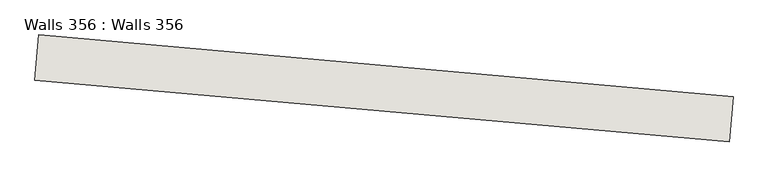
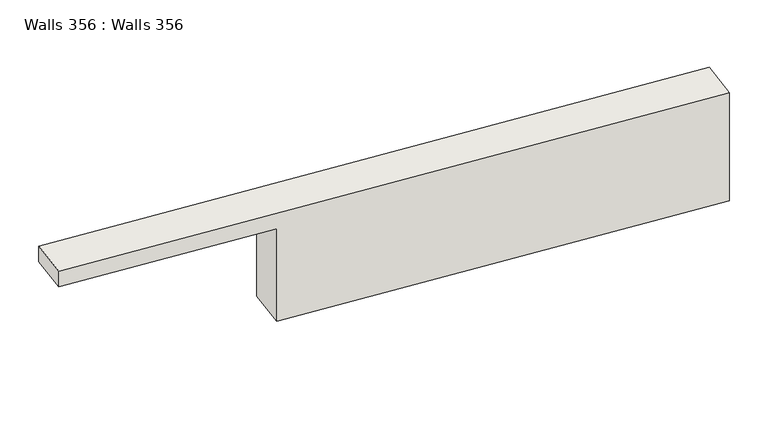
"""IFC4 building model written with IfcOpenShell, lengths in millimetres: wall geometry, Walls 356 : Walls 356."""

from ifc_helpers import new_model, si_unit, frame, origin, place, context, project, spatial, polyline, outline, extrude, source, transform, mapped, element, save


def walls_356_walls_356_9ad7ac20(model_context):
    return source(origin(), model_context, "Body", "SweptSolid", [
        extrude(outline(polyline([(2000.0, 0.0), (2000.0, -160.0), (0.0, -160.0), (0.0, -1100.0), (-4149.9999999, -1100.0), (-4149.9999999, 0.0), (2000.0, 0.0)])), frame((-734581.8415401, -413637.507917, 636460.0), z_axis=(0.0887373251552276, 0.9960550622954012, 0.0), x_axis=(-0.9960550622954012, 0.0887373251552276, 0.0)), (0.0, 0.0, 1.0), 400.0),
    ])


if __name__ == "__main__":
    model = new_model("IFC4")
    model_context = context("Model", 3, world=origin())
    ifc_project = project(units=[si_unit("LENGTHUNIT", "METRE", prefix="MILLI")], contexts=[model_context])
    site = spatial("IfcSite", under=ifc_project)
    building = spatial("IfcBuilding", under=site)
    placement = place(None, origin())
    walls_356_walls_356_shape = walls_356_walls_356_9ad7ac20(model_context)
    element("IfcWall", 1, ObjectType="Walls 356 : Walls 356", at=placement, inside=building, context=model_context, shape_type="MappedRepresentation", body=[
        mapped(walls_356_walls_356_shape, transform((0.0, 0.0, 0.0), x_axis=(1.0, 0.0, 0.0), y_axis=(0.0, 1.0, 0.0), z_axis=(0.0, 0.0, 1.0))),
    ])
    save(model, "model.ifc")
